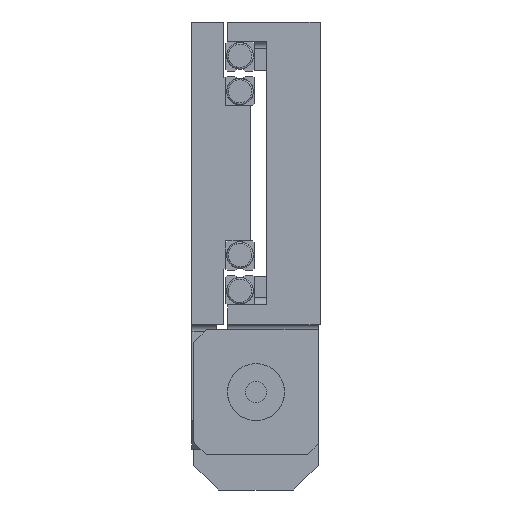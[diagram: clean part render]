
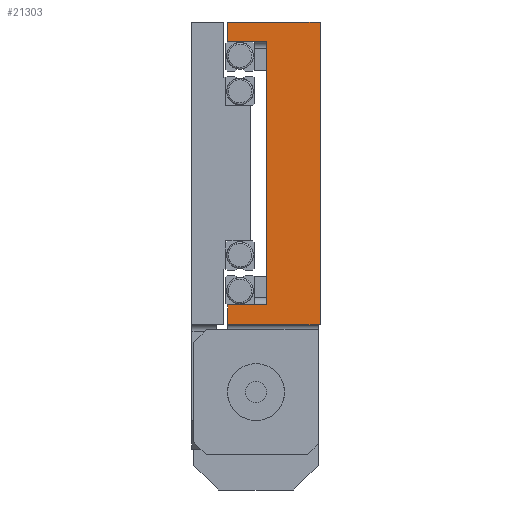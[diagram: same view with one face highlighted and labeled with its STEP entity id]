
A CAD part, left-side view. The second image highlights one B-rep face of the part: STEP entity #21303.
In plain terms, the highlighted planar face has unit normal (-1, 0, 0).
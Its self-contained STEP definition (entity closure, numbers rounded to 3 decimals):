
#603 = VERTEX_POINT ( 'NONE', #14923 ) ;
#1226 = CARTESIAN_POINT ( 'NONE',  ( -240., 26., 42.5 ) ) ;
#1602 = LINE ( 'NONE', #14374, #7317 ) ;
#2443 = DIRECTION ( 'NONE',  ( 0., 0., 1. ) ) ;
#2445 = VERTEX_POINT ( 'NONE', #5950 ) ;
#3785 = DIRECTION ( 'NONE',  ( 0., 0., 1. ) ) ;
#3935 = EDGE_CURVE ( 'NONE', #603, #2445, #13925, .T. ) ;
#5105 = PLANE ( 'NONE',  #29400 ) ;
#5242 = ORIENTED_EDGE ( 'NONE', *, *, #24703, .F. ) ;
#5304 = ORIENTED_EDGE ( 'NONE', *, *, #6907, .F. ) ;
#5425 = FACE_OUTER_BOUND ( 'NONE', #23667, .T. ) ;
#5950 = CARTESIAN_POINT ( 'NONE',  ( -240., 0., 42.5 ) ) ;
#6907 = EDGE_CURVE ( 'NONE', #30245, #24309, #1602, .T. ) ;
#7049 = DIRECTION ( 'NONE',  ( 0., 1., 0. ) ) ;
#7317 = VECTOR ( 'NONE', #14549, 1000. ) ;
#7540 = CARTESIAN_POINT ( 'NONE',  ( -240., 15., -29. ) ) ;
#7729 = LINE ( 'NONE', #30413, #23788 ) ;
#9514 = DIRECTION ( 'NONE',  ( 0., 1., 0. ) ) ;
#10032 = CARTESIAN_POINT ( 'NONE',  ( -240., 26., 42.5 ) ) ;
#10181 = DIRECTION ( 'NONE',  ( 1., 0., 0. ) ) ;
#10894 = ORIENTED_EDGE ( 'NONE', *, *, #3935, .T. ) ;
#11343 = ORIENTED_EDGE ( 'NONE', *, *, #16244, .F. ) ;
#13733 = VERTEX_POINT ( 'NONE', #28608 ) ;
#13925 = LINE ( 'NONE', #18674, #14806 ) ;
#14374 = CARTESIAN_POINT ( 'NONE',  ( -240., 26., 42.5 ) ) ;
#14549 = DIRECTION ( 'NONE',  ( 0., 0., 1. ) ) ;
#14798 = VECTOR ( 'NONE', #20301, 1000. ) ;
#14806 = VECTOR ( 'NONE', #3785, 1000. ) ;
#14923 = CARTESIAN_POINT ( 'NONE',  ( -240., 0., -42.5 ) ) ;
#15167 = EDGE_CURVE ( 'NONE', #18617, #23427, #24686, .T. ) ;
#16183 = ORIENTED_EDGE ( 'NONE', *, *, #25580, .F. ) ;
#16244 = EDGE_CURVE ( 'NONE', #23427, #17660, #22587, .T. ) ;
#17039 = EDGE_CURVE ( 'NONE', #13733, #24309, #26842, .T. ) ;
#17065 = CARTESIAN_POINT ( 'NONE',  ( -240., 26., -37. ) ) ;
#17343 = LINE ( 'NONE', #7540, #24943 ) ;
#17502 = CARTESIAN_POINT ( 'NONE',  ( -240., 18.5, 37. ) ) ;
#17660 = VERTEX_POINT ( 'NONE', #28871 ) ;
#17990 = EDGE_CURVE ( 'NONE', #603, #30245, #7729, .T. ) ;
#18447 = CARTESIAN_POINT ( 'NONE',  ( -240., 15., 37. ) ) ;
#18617 = VERTEX_POINT ( 'NONE', #18447 ) ;
#18674 = CARTESIAN_POINT ( 'NONE',  ( -240., 0., 42.5 ) ) ;
#18760 = LINE ( 'NONE', #1226, #23875 ) ;
#19028 = CARTESIAN_POINT ( 'NONE',  ( -240., 18.5, -37. ) ) ;
#19224 = CARTESIAN_POINT ( 'NONE',  ( -240., 26., -42.5 ) ) ;
#20301 = DIRECTION ( 'NONE',  ( 0., 0., 1. ) ) ;
#20475 = DIRECTION ( 'NONE',  ( 0., 0., -1. ) ) ;
#21303 = ADVANCED_FACE ( 'NONE', ( #5425 ), #5105, .F. ) ;
#22368 = ORIENTED_EDGE ( 'NONE', *, *, #17990, .F. ) ;
#22587 = LINE ( 'NONE', #29921, #14798 ) ;
#22602 = DIRECTION ( 'NONE',  ( 0., 1., 0. ) ) ;
#22741 = CARTESIAN_POINT ( 'NONE',  ( -240., 26., 37. ) ) ;
#23427 = VERTEX_POINT ( 'NONE', #22741 ) ;
#23667 = EDGE_LOOP ( 'NONE', ( #5242, #31446, #5304, #22368, #10894, #16183, #11343, #27604 ) ) ;
#23788 = VECTOR ( 'NONE', #22602, 1000. ) ;
#23875 = VECTOR ( 'NONE', #31313, 1000. ) ;
#24309 = VERTEX_POINT ( 'NONE', #17065 ) ;
#24686 = LINE ( 'NONE', #17502, #31893 ) ;
#24703 = EDGE_CURVE ( 'NONE', #13733, #18617, #17343, .T. ) ;
#24943 = VECTOR ( 'NONE', #2443, 1000. ) ;
#25289 = VECTOR ( 'NONE', #9514, 1000. ) ;
#25580 = EDGE_CURVE ( 'NONE', #17660, #2445, #18760, .T. ) ;
#26842 = LINE ( 'NONE', #19028, #25289 ) ;
#27604 = ORIENTED_EDGE ( 'NONE', *, *, #15167, .F. ) ;
#28608 = CARTESIAN_POINT ( 'NONE',  ( -240., 15., -37. ) ) ;
#28871 = CARTESIAN_POINT ( 'NONE',  ( -240., 26., 42.5 ) ) ;
#29400 = AXIS2_PLACEMENT_3D ( 'NONE', #10032, #10181, #20475 ) ;
#29921 = CARTESIAN_POINT ( 'NONE',  ( -240., 26., 42.5 ) ) ;
#30245 = VERTEX_POINT ( 'NONE', #19224 ) ;
#30413 = CARTESIAN_POINT ( 'NONE',  ( -240., 0., -42.5 ) ) ;
#31313 = DIRECTION ( 'NONE',  ( 0., -1., 0. ) ) ;
#31446 = ORIENTED_EDGE ( 'NONE', *, *, #17039, .T. ) ;
#31893 = VECTOR ( 'NONE', #7049, 1000. ) ;
